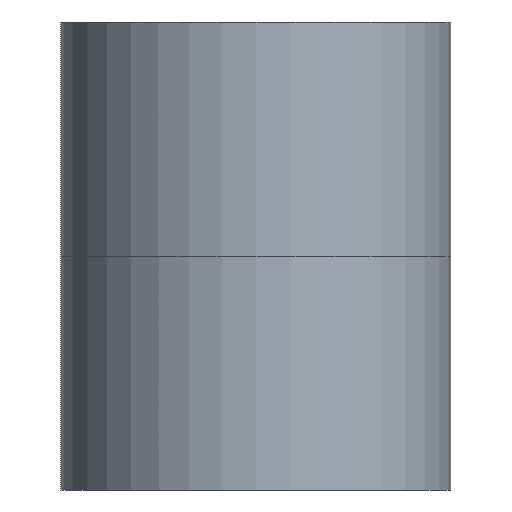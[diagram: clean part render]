
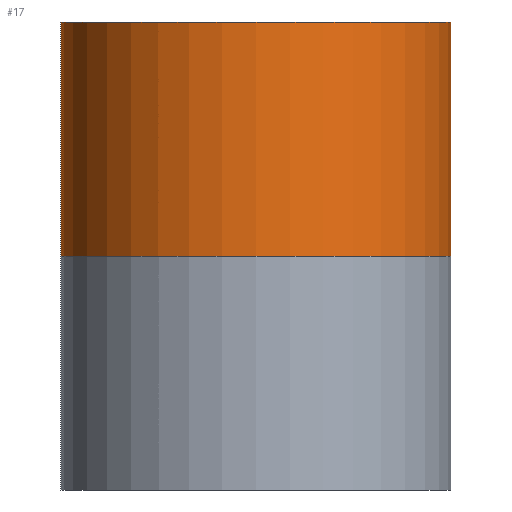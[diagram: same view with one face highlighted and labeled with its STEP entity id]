
A CAD part, front view. The second image highlights one B-rep face of the part: STEP entity #17.
In plain terms, the highlighted cylindrical face has radius 10 mm (diameter 20 mm), a full revolution.
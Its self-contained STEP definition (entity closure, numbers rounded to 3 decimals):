
#17 = ADVANCED_FACE('',(#18),#32,.T.);
#18 = FACE_BOUND('',#19,.F.);
#19 = EDGE_LOOP('',(#20,#50,#77,#78));
#20 = ORIENTED_EDGE('',*,*,#21,.T.);
#21 = EDGE_CURVE('',#22,#24,#26,.T.);
#22 = VERTEX_POINT('',#23);
#23 = CARTESIAN_POINT('',(319.,38.5,0.));
#24 = VERTEX_POINT('',#25);
#25 = CARTESIAN_POINT('',(319.,38.5,12.));
#26 = SEAM_CURVE('',#27,(#31,#43),.PCURVE_S1.);
#27 = LINE('',#28,#29);
#28 = CARTESIAN_POINT('',(319.,38.5,0.));
#29 = VECTOR('',#30,1.);
#30 = DIRECTION('',(0.,0.,1.));
#31 = PCURVE('',#32,#37);
#32 = CYLINDRICAL_SURFACE('',#33,10.);
#33 = AXIS2_PLACEMENT_3D('',#34,#35,#36);
#34 = CARTESIAN_POINT('',(309.,38.5,0.));
#35 = DIRECTION('',(-0.,-0.,-1.));
#36 = DIRECTION('',(1.,0.,0.));
#37 = DEFINITIONAL_REPRESENTATION('',(#38),#42);
#38 = LINE('',#39,#40);
#39 = CARTESIAN_POINT('',(-0.,0.));
#40 = VECTOR('',#41,1.);
#41 = DIRECTION('',(-0.,-1.));
#42 = ( GEOMETRIC_REPRESENTATION_CONTEXT(2) 
PARAMETRIC_REPRESENTATION_CONTEXT() REPRESENTATION_CONTEXT('2D SPACE',''
  ) );
#43 = PCURVE('',#32,#44);
#44 = DEFINITIONAL_REPRESENTATION('',(#45),#49);
#45 = LINE('',#46,#47);
#46 = CARTESIAN_POINT('',(-6.283,0.));
#47 = VECTOR('',#48,1.);
#48 = DIRECTION('',(-0.,-1.));
#49 = ( GEOMETRIC_REPRESENTATION_CONTEXT(2) 
PARAMETRIC_REPRESENTATION_CONTEXT() REPRESENTATION_CONTEXT('2D SPACE',''
  ) );
#50 = ORIENTED_EDGE('',*,*,#51,.T.);
#51 = EDGE_CURVE('',#24,#24,#52,.T.);
#52 = SURFACE_CURVE('',#53,(#58,#65),.PCURVE_S1.);
#53 = CIRCLE('',#54,10.);
#54 = AXIS2_PLACEMENT_3D('',#55,#56,#57);
#55 = CARTESIAN_POINT('',(309.,38.5,12.));
#56 = DIRECTION('',(0.,0.,1.));
#57 = DIRECTION('',(1.,0.,0.));
#58 = PCURVE('',#32,#59);
#59 = DEFINITIONAL_REPRESENTATION('',(#60),#64);
#60 = LINE('',#61,#62);
#61 = CARTESIAN_POINT('',(-0.,-12.));
#62 = VECTOR('',#63,1.);
#63 = DIRECTION('',(-1.,0.));
#64 = ( GEOMETRIC_REPRESENTATION_CONTEXT(2) 
PARAMETRIC_REPRESENTATION_CONTEXT() REPRESENTATION_CONTEXT('2D SPACE',''
  ) );
#65 = PCURVE('',#66,#71);
#66 = PLANE('',#67);
#67 = AXIS2_PLACEMENT_3D('',#68,#69,#70);
#68 = CARTESIAN_POINT('',(309.,38.5,12.));
#69 = DIRECTION('',(0.,0.,1.));
#70 = DIRECTION('',(1.,0.,-0.));
#71 = DEFINITIONAL_REPRESENTATION('',(#72),#76);
#72 = CIRCLE('',#73,10.);
#73 = AXIS2_PLACEMENT_2D('',#74,#75);
#74 = CARTESIAN_POINT('',(0.,0.));
#75 = DIRECTION('',(1.,0.));
#76 = ( GEOMETRIC_REPRESENTATION_CONTEXT(2) 
PARAMETRIC_REPRESENTATION_CONTEXT() REPRESENTATION_CONTEXT('2D SPACE',''
  ) );
#77 = ORIENTED_EDGE('',*,*,#21,.F.);
#78 = ORIENTED_EDGE('',*,*,#79,.F.);
#79 = EDGE_CURVE('',#22,#22,#80,.T.);
#80 = SURFACE_CURVE('',#81,(#86,#93),.PCURVE_S1.);
#81 = CIRCLE('',#82,10.);
#82 = AXIS2_PLACEMENT_3D('',#83,#84,#85);
#83 = CARTESIAN_POINT('',(309.,38.5,0.));
#84 = DIRECTION('',(0.,0.,1.));
#85 = DIRECTION('',(1.,0.,0.));
#86 = PCURVE('',#32,#87);
#87 = DEFINITIONAL_REPRESENTATION('',(#88),#92);
#88 = LINE('',#89,#90);
#89 = CARTESIAN_POINT('',(-0.,0.));
#90 = VECTOR('',#91,1.);
#91 = DIRECTION('',(-1.,0.));
#92 = ( GEOMETRIC_REPRESENTATION_CONTEXT(2) 
PARAMETRIC_REPRESENTATION_CONTEXT() REPRESENTATION_CONTEXT('2D SPACE',''
  ) );
#93 = PCURVE('',#94,#99);
#94 = CYLINDRICAL_SURFACE('',#95,10.);
#95 = AXIS2_PLACEMENT_3D('',#96,#97,#98);
#96 = CARTESIAN_POINT('',(309.,38.5,0.));
#97 = DIRECTION('',(0.,0.,1.));
#98 = DIRECTION('',(1.,0.,0.));
#99 = DEFINITIONAL_REPRESENTATION('',(#100),#104);
#100 = LINE('',#101,#102);
#101 = CARTESIAN_POINT('',(0.,0.));
#102 = VECTOR('',#103,1.);
#103 = DIRECTION('',(1.,0.));
#104 = ( GEOMETRIC_REPRESENTATION_CONTEXT(2) 
PARAMETRIC_REPRESENTATION_CONTEXT() REPRESENTATION_CONTEXT('2D SPACE',''
  ) );
